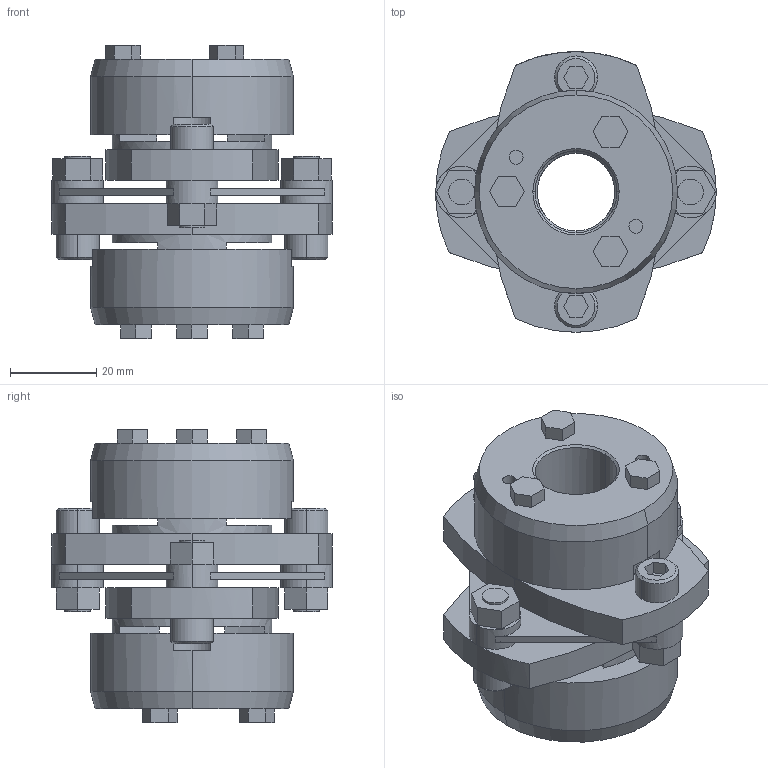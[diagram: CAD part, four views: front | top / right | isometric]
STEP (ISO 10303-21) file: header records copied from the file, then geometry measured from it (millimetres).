
FILE_DESCRIPTION((''),'2;1');
FILE_NAME('LCS-65T7-18×19.stp','2011-08-23T13:22:41',(''),(''),'AutoCAD STEP 2000i','AutoCAD 2000i',', , ');
FILE_SCHEMA(('CONFIG_CONTROL_DESIGN'));
Length unit declared in the file: millimetre
Products named in the file (8): LCS-65T7-17×19; 忣兜1; LC65T7-T019; LC65T7-T017-1; LC65T7-T017; LC65T7-T015-1; LC65T7-T015; LCS65-ITA
Assembly tree (7 placements, depth 2):
  LCS-65T7-17×19
    忣兜1
    LC65T7-T019
    LC65T7-T017-1
    LC65T7-T017
    LC65T7-T015-1
    LC65T7-T015
    LCS65-ITA
Bounding box: 65 x 65 x 67.9 mm (x, y, z)
Volume: 90610.5 mm3; surface area: 30072.1 mm2
Topology: 1 solids, 1 shells, 228 faces, 586 edges, 382 vertices
Faces by surface type: plane 136, cylinder 72, cone 20
Entity records: 7181 total; most frequent: DIRECTION 1268, CARTESIAN_POINT 1204, ORIENTED_EDGE 1172, EDGE_CURVE 586, AXIS2_PLACEMENT_3D 446, VERTEX_POINT 382, VECTOR 376, LINE 376
